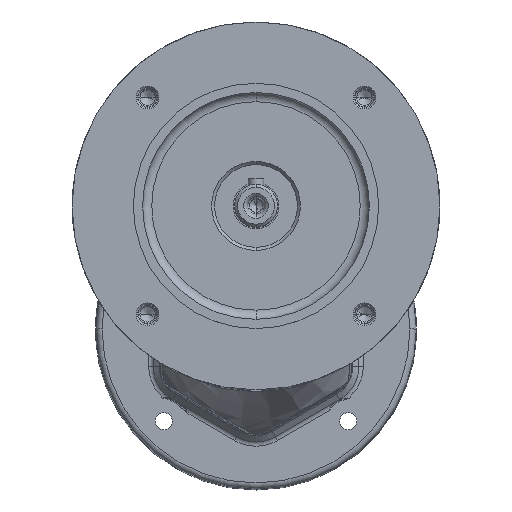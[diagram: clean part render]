
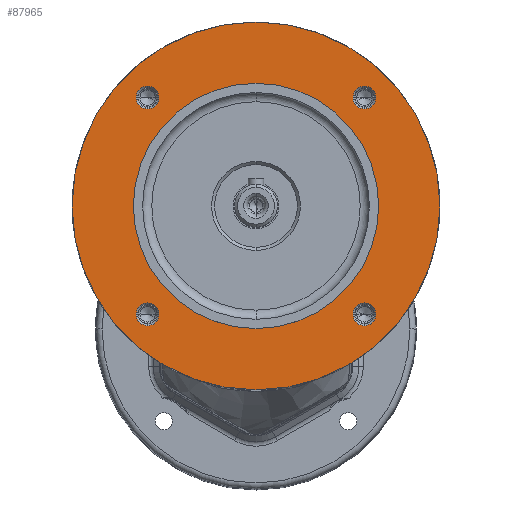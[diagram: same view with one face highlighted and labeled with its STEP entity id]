
A CAD part, top view. The second image highlights one B-rep face of the part: STEP entity #87965.
In plain terms, the highlighted planar face has unit normal (0, 0, 1).
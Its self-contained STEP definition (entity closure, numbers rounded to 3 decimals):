
#33979 = CARTESIAN_POINT ( 'NONE',  ( -31.655, 35.355, 0. ) ) ;
#33980 = DIRECTION ( 'NONE',  ( 0., -1., 0. ) ) ;
#33981 = DIRECTION ( 'NONE',  ( 0., 0., -1. ) ) ;
#33982 = CARTESIAN_POINT ( 'NONE',  ( -35.355, 35.355, 0. ) ) ;
#33983 = AXIS2_PLACEMENT_3D ( 'NONE', #33982, #33981, #33980 ) ;
#33984 = CIRCLE ( 'NONE', #33983, 3.7 ) ;
#33989 = CARTESIAN_POINT ( 'NONE',  ( -39.055, -35.355, 0. ) ) ;
#34050 = CARTESIAN_POINT ( 'NONE',  ( -39.055, 35.355, 0. ) ) ;
#34108 = CARTESIAN_POINT ( 'NONE',  ( -31.655, -35.355, 0. ) ) ;
#34109 = DIRECTION ( 'NONE',  ( 0., -1., 0. ) ) ;
#34110 = DIRECTION ( 'NONE',  ( 0., 0., -1. ) ) ;
#34111 = AXIS2_PLACEMENT_3D ( 'NONE', #34117, #34110, #34109 ) ;
#34112 = CIRCLE ( 'NONE', #34111, 3.7 ) ;
#34117 = CARTESIAN_POINT ( 'NONE',  ( -35.355, -35.355, 0. ) ) ;
#34143 = CARTESIAN_POINT ( 'NONE',  ( 39.055, 35.355, 0. ) ) ;
#34144 = DIRECTION ( 'NONE',  ( 0., -1., 0. ) ) ;
#34145 = DIRECTION ( 'NONE',  ( 0., 0., -1. ) ) ;
#34146 = CARTESIAN_POINT ( 'NONE',  ( 35.355, 35.355, 0. ) ) ;
#34147 = AXIS2_PLACEMENT_3D ( 'NONE', #34146, #34145, #34144 ) ;
#34148 = CIRCLE ( 'NONE', #34147, 3.7 ) ;
#34149 = CARTESIAN_POINT ( 'NONE',  ( 31.655, 35.355, 0. ) ) ;
#34150 = CARTESIAN_POINT ( 'NONE',  ( 31.655, -35.355, 0. ) ) ;
#34928 = CARTESIAN_POINT ( 'NONE',  ( 0., 40., 0. ) ) ;
#34929 = DIRECTION ( 'NONE',  ( 0., 1., 0. ) ) ;
#34930 = DIRECTION ( 'NONE',  ( 0., 0., -1. ) ) ;
#34931 = CARTESIAN_POINT ( 'NONE',  ( 0., 0., 0. ) ) ;
#34932 = AXIS2_PLACEMENT_3D ( 'NONE', #34931, #34930, #34929 ) ;
#34933 = CIRCLE ( 'NONE', #34932, 40. ) ;
#34934 = CARTESIAN_POINT ( 'NONE',  ( 0., -40., 0. ) ) ;
#34980 = CARTESIAN_POINT ( 'NONE',  ( 0., -60., 0. ) ) ;
#34981 = CARTESIAN_POINT ( 'NONE',  ( 0., 60., 0. ) ) ;
#34982 = DIRECTION ( 'NONE',  ( 0., 1., 0. ) ) ;
#34983 = DIRECTION ( 'NONE',  ( 0., 0., -1. ) ) ;
#34984 = AXIS2_PLACEMENT_3D ( 'NONE', #34989, #34983, #34982 ) ;
#34985 = CIRCLE ( 'NONE', #34984, 60. ) ;
#34989 = CARTESIAN_POINT ( 'NONE',  ( 0., 0., 0. ) ) ;
#37708 = DIRECTION ( 'NONE',  ( 0., -1., 0. ) ) ;
#37709 = DIRECTION ( 'NONE',  ( 0., 0., 1. ) ) ;
#37710 = CARTESIAN_POINT ( 'NONE',  ( 0., 40., 0. ) ) ;
#37711 = AXIS2_PLACEMENT_3D ( 'NONE', #37710, #37709, #37708 ) ;
#37712 = PLANE ( 'NONE',  #37711 ) ;
#37713 = FACE_OUTER_BOUND ( 'NONE', #88019, .T. ) ;
#37714 = FACE_BOUND ( 'NONE', #88042, .T. ) ;
#37715 = FACE_BOUND ( 'NONE', #88039, .T. ) ;
#37716 = FACE_BOUND ( 'NONE', #88035, .T. ) ;
#37717 = FACE_BOUND ( 'NONE', #88031, .T. ) ;
#37718 = FACE_BOUND ( 'NONE', #87967, .T. ) ;
#37719 = DIRECTION ( 'NONE',  ( 0., 1., 0. ) ) ;
#37720 = DIRECTION ( 'NONE',  ( 0., 0., -1. ) ) ;
#37721 = AXIS2_PLACEMENT_3D ( 'NONE', #37725, #37720, #37719 ) ;
#37722 = CIRCLE ( 'NONE', #37721, 60. ) ;
#37725 = CARTESIAN_POINT ( 'NONE',  ( 0., 0., 0. ) ) ;
#37794 = DIRECTION ( 'NONE',  ( 0., 1., 0. ) ) ;
#37795 = DIRECTION ( 'NONE',  ( 0., 0., -1. ) ) ;
#37796 = CARTESIAN_POINT ( 'NONE',  ( 0., 0., 0. ) ) ;
#37797 = AXIS2_PLACEMENT_3D ( 'NONE', #37796, #37795, #37794 ) ;
#37798 = CIRCLE ( 'NONE', #37797, 40. ) ;
#37799 = DIRECTION ( 'NONE',  ( 0., -1., 0. ) ) ;
#37800 = DIRECTION ( 'NONE',  ( 0., 0., -1. ) ) ;
#37801 = AXIS2_PLACEMENT_3D ( 'NONE', #37807, #37800, #37799 ) ;
#37802 = CIRCLE ( 'NONE', #37801, 3.7 ) ;
#37807 = CARTESIAN_POINT ( 'NONE',  ( -35.355, 35.355, 0. ) ) ;
#37832 = DIRECTION ( 'NONE',  ( 0., -1., 0. ) ) ;
#37833 = DIRECTION ( 'NONE',  ( 0., 0., -1. ) ) ;
#37834 = CARTESIAN_POINT ( 'NONE',  ( 35.355, 35.355, 0. ) ) ;
#37835 = AXIS2_PLACEMENT_3D ( 'NONE', #37834, #37833, #37832 ) ;
#37836 = CIRCLE ( 'NONE', #37835, 3.7 ) ;
#37837 = DIRECTION ( 'NONE',  ( 0., -1., 0. ) ) ;
#37838 = DIRECTION ( 'NONE',  ( 0., 0., -1. ) ) ;
#37839 = CARTESIAN_POINT ( 'NONE',  ( -35.355, -35.355, 0. ) ) ;
#37840 = AXIS2_PLACEMENT_3D ( 'NONE', #37839, #37838, #37837 ) ;
#37841 = CIRCLE ( 'NONE', #37840, 3.7 ) ;
#37842 = DIRECTION ( 'NONE',  ( 0., -1., 0. ) ) ;
#37843 = DIRECTION ( 'NONE',  ( 0., 0., -1. ) ) ;
#37844 = CARTESIAN_POINT ( 'NONE',  ( 35.355, -35.355, 0. ) ) ;
#37845 = AXIS2_PLACEMENT_3D ( 'NONE', #37844, #37843, #37842 ) ;
#37846 = CIRCLE ( 'NONE', #37845, 3.7 ) ;
#84717 = VERTEX_POINT ( 'NONE', #113794 ) ;
#84724 = EDGE_CURVE ( 'NONE', #84717, #86591, #113772, .T. ) ;
#86524 = VERTEX_POINT ( 'NONE', #33989 ) ;
#86528 = EDGE_CURVE ( 'NONE', #86529, #86556, #33984, .T. ) ;
#86529 = VERTEX_POINT ( 'NONE', #33979 ) ;
#86556 = VERTEX_POINT ( 'NONE', #34050 ) ;
#86579 = EDGE_CURVE ( 'NONE', #86580, #86524, #34112, .T. ) ;
#86580 = VERTEX_POINT ( 'NONE', #34108 ) ;
#86591 = VERTEX_POINT ( 'NONE', #34150 ) ;
#86593 = VERTEX_POINT ( 'NONE', #34149 ) ;
#86595 = EDGE_CURVE ( 'NONE', #86596, #86593, #34148, .T. ) ;
#86596 = VERTEX_POINT ( 'NONE', #34143 ) ;
#86935 = VERTEX_POINT ( 'NONE', #34934 ) ;
#86937 = EDGE_CURVE ( 'NONE', #86938, #86935, #34933, .T. ) ;
#86938 = VERTEX_POINT ( 'NONE', #34928 ) ;
#86944 = EDGE_CURVE ( 'NONE', #86945, #86946, #34985, .T. ) ;
#86945 = VERTEX_POINT ( 'NONE', #34981 ) ;
#86946 = VERTEX_POINT ( 'NONE', #34980 ) ;
#87961 = EDGE_CURVE ( 'NONE', #86946, #86945, #37722, .T. ) ;
#87965 = ADVANCED_FACE ( 'NONE', ( #37718, #37717, #37716, #37715, #37714, #37713 ), #37712, .T. ) ;
#87967 = EDGE_LOOP ( 'NONE', ( #87969, #88029 ) ) ;
#87969 = ORIENTED_EDGE ( 'NONE', *, *, #84724, .T. ) ;
#88015 = EDGE_CURVE ( 'NONE', #86556, #86529, #37802, .T. ) ;
#88016 = ORIENTED_EDGE ( 'NONE', *, *, #86937, .T. ) ;
#88017 = ORIENTED_EDGE ( 'NONE', *, *, #88018, .T. ) ;
#88018 = EDGE_CURVE ( 'NONE', #86935, #86938, #37798, .T. ) ;
#88019 = EDGE_LOOP ( 'NONE', ( #88020, #88021 ) ) ;
#88020 = ORIENTED_EDGE ( 'NONE', *, *, #86944, .F. ) ;
#88021 = ORIENTED_EDGE ( 'NONE', *, *, #87961, .F. ) ;
#88029 = ORIENTED_EDGE ( 'NONE', *, *, #88030, .T. ) ;
#88030 = EDGE_CURVE ( 'NONE', #86591, #84717, #37846, .T. ) ;
#88031 = EDGE_LOOP ( 'NONE', ( #88032, #88033 ) ) ;
#88032 = ORIENTED_EDGE ( 'NONE', *, *, #86579, .T. ) ;
#88033 = ORIENTED_EDGE ( 'NONE', *, *, #88034, .T. ) ;
#88034 = EDGE_CURVE ( 'NONE', #86524, #86580, #37841, .T. ) ;
#88035 = EDGE_LOOP ( 'NONE', ( #88036, #88037 ) ) ;
#88036 = ORIENTED_EDGE ( 'NONE', *, *, #86595, .T. ) ;
#88037 = ORIENTED_EDGE ( 'NONE', *, *, #88038, .T. ) ;
#88038 = EDGE_CURVE ( 'NONE', #86593, #86596, #37836, .T. ) ;
#88039 = EDGE_LOOP ( 'NONE', ( #88040, #88041 ) ) ;
#88040 = ORIENTED_EDGE ( 'NONE', *, *, #86528, .T. ) ;
#88041 = ORIENTED_EDGE ( 'NONE', *, *, #88015, .T. ) ;
#88042 = EDGE_LOOP ( 'NONE', ( #88016, #88017 ) ) ;
#113768 = DIRECTION ( 'NONE',  ( 0., -1., 0. ) ) ;
#113769 = DIRECTION ( 'NONE',  ( 0., 0., -1. ) ) ;
#113770 = CARTESIAN_POINT ( 'NONE',  ( 35.355, -35.355, 0. ) ) ;
#113771 = AXIS2_PLACEMENT_3D ( 'NONE', #113770, #113769, #113768 ) ;
#113772 = CIRCLE ( 'NONE', #113771, 3.7 ) ;
#113794 = CARTESIAN_POINT ( 'NONE',  ( 39.055, -35.355, 0. ) ) ;
